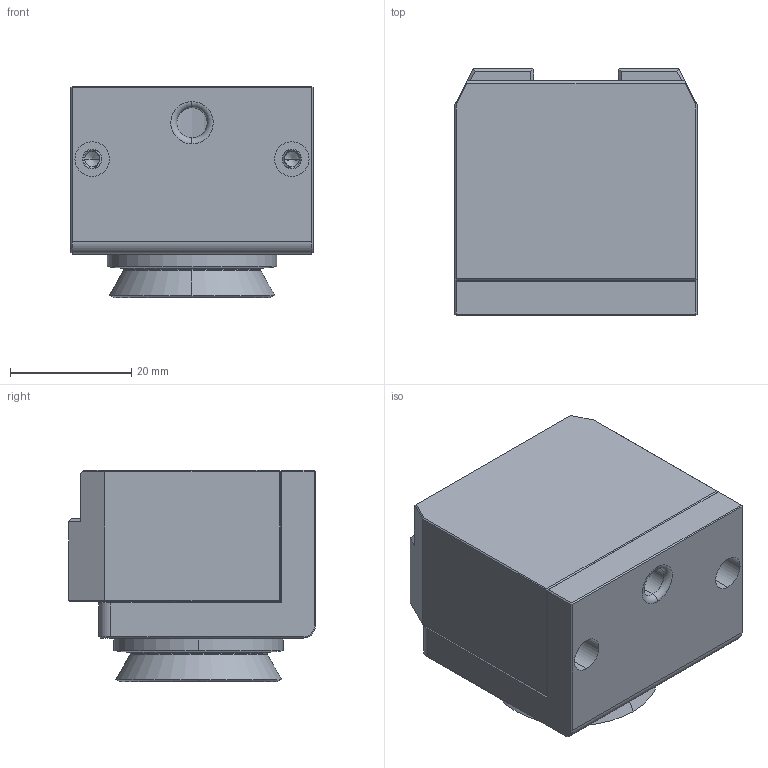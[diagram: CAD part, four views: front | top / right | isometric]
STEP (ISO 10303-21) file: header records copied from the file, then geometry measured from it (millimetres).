
FILE_DESCRIPTION (( 'STEP AP203' ), '1' );
FILE_NAME ('QCHFM-02高频模块机器人侧.STEP', '2023-12-27T09:03:33', ( '微软用户' ), ( '微软中国' ), 'SwSTEP 2.0', 'SolidWorks 2018', '' );
FILE_SCHEMA (( 'CONFIG_CONTROL_DESIGN' ));
Length unit declared in the file: millimetre
Products named in the file (1): QCHFM-02高频模块机器人侧
Bounding box: 40 x 40.8 x 34.9 mm (x, y, z)
Volume: 38194 mm3; surface area: 13103.5 mm2
Topology: 7 solids, 7 shells, 270 faces, 617 edges, 368 vertices
Faces by surface type: plane 123, cylinder 75, cone 60, torus 6, bspline 6
Entity records: 7827 total; most frequent: CARTESIAN_POINT 1817, DIRECTION 1228, ORIENTED_EDGE 1218, EDGE_CURVE 609, AXIS2_PLACEMENT_3D 477, VERTEX_POINT 368, EDGE_LOOP 299, LINE 274
